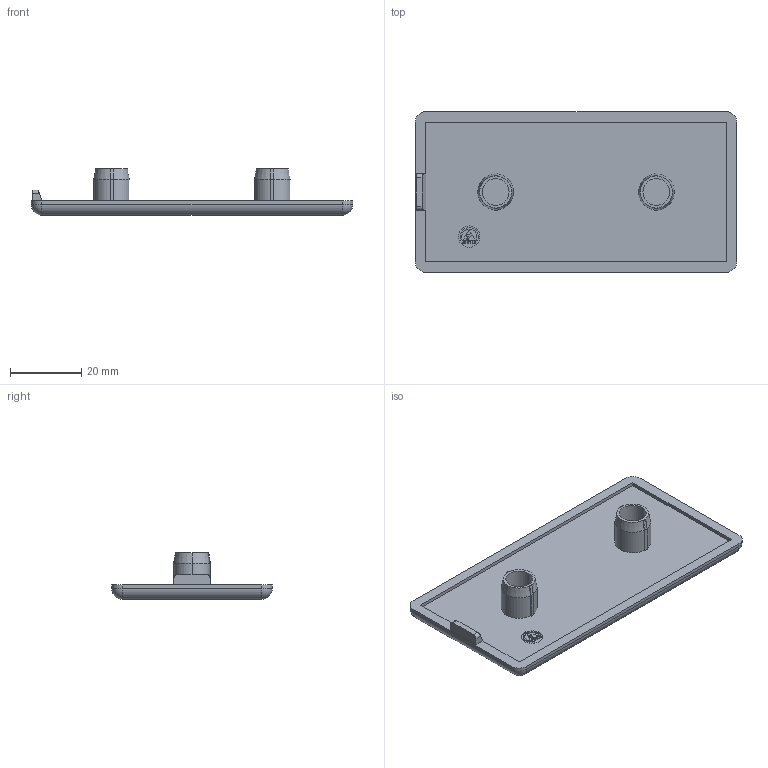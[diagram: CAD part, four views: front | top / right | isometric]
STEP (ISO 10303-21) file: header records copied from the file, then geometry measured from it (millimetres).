
FILE_DESCRIPTION (( 'STEP AP214' ), '1' );
FILE_NAME ('091006S03.STEP', '2021-08-25T11:17:02', ( '' ), ( '' ), 'SwSTEP 2.0', 'SolidWorks 2021', '' );
FILE_SCHEMA (( 'AUTOMOTIVE_DESIGN' ));
Length unit declared in the file: millimetre
Products named in the file (1): 091006S03
Bounding box: 90 x 45 x 13 mm (x, y, z)
Volume: 13099.5 mm3; surface area: 10213.7 mm2
Topology: 6 solids, 6 shells, 175 faces, 459 edges, 298 vertices
Faces by surface type: plane 127, cylinder 32, cone 10, sphere 4, bspline 2
Entity records: 5404 total; most frequent: CARTESIAN_POINT 1009, ORIENTED_EDGE 910, DIRECTION 853, EDGE_CURVE 455, VECTOR 361, LINE 361, VERTEX_POINT 298, AXIS2_PLACEMENT_3D 246
